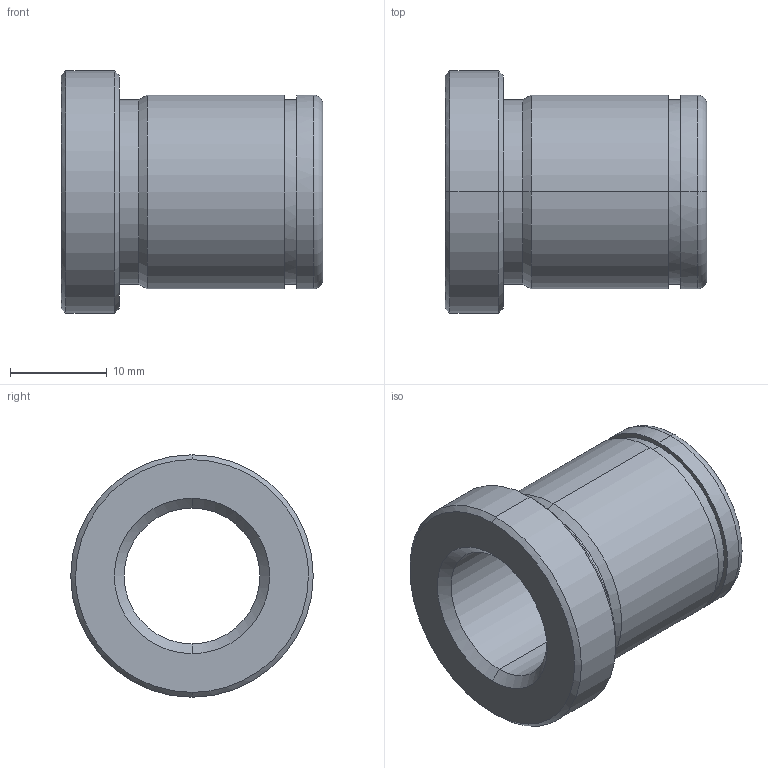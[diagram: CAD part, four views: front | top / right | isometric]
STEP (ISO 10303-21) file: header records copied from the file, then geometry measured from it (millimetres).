
FILE_DESCRIPTION(('CATIA V5 STEP Exchange'),'2;1');
FILE_NAME('C:\Users\Utente\Desktop\IO LAVORO\3D X SITO CF\X SITO\PLASTICA\553\553-14X27.stp','2021-05-21T18:26:30+00:00',('none'),('none'),'CATIA Version 5 Release 20 GA (IN-10)','CATIA V5 STEP AP203','none');
FILE_SCHEMA(('CONFIG_CONTROL_DESIGN'));
Length unit declared in the file: millimetre
Products named in the file (1): 553-14x27
Bounding box: 27 x 25 x 25 mm (x, y, z)
Volume: 5193.9 mm3; surface area: 3614.6 mm2
Topology: 1 solids, 1 shells, 29 faces, 92 edges, 68 vertices
Faces by surface type: cylinder 12, cone 8, plane 5, torus 4
Entity records: 1222 total; most frequent: CARTESIAN_POINT 368, ORIENTED_EDGE 184, DIRECTION 136, EDGE_CURVE 92, AXIS2_PLACEMENT_3D 88, VERTEX_POINT 68, CIRCLE 58, EDGE_LOOP 34
